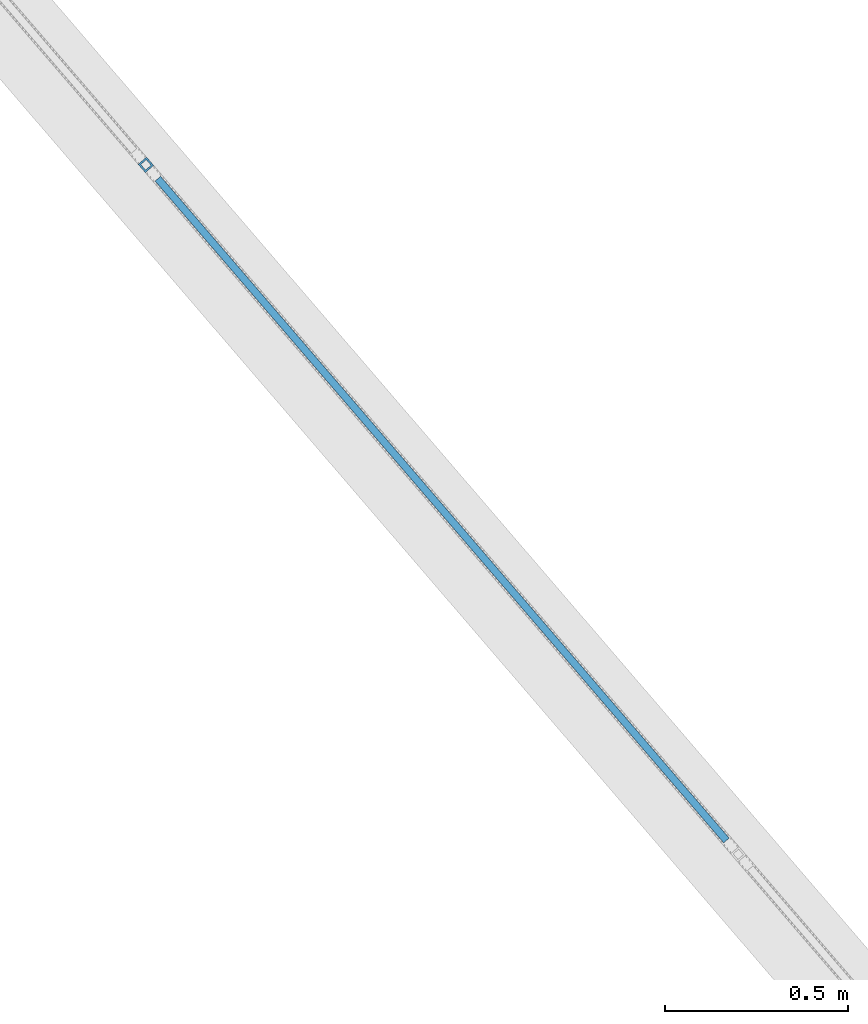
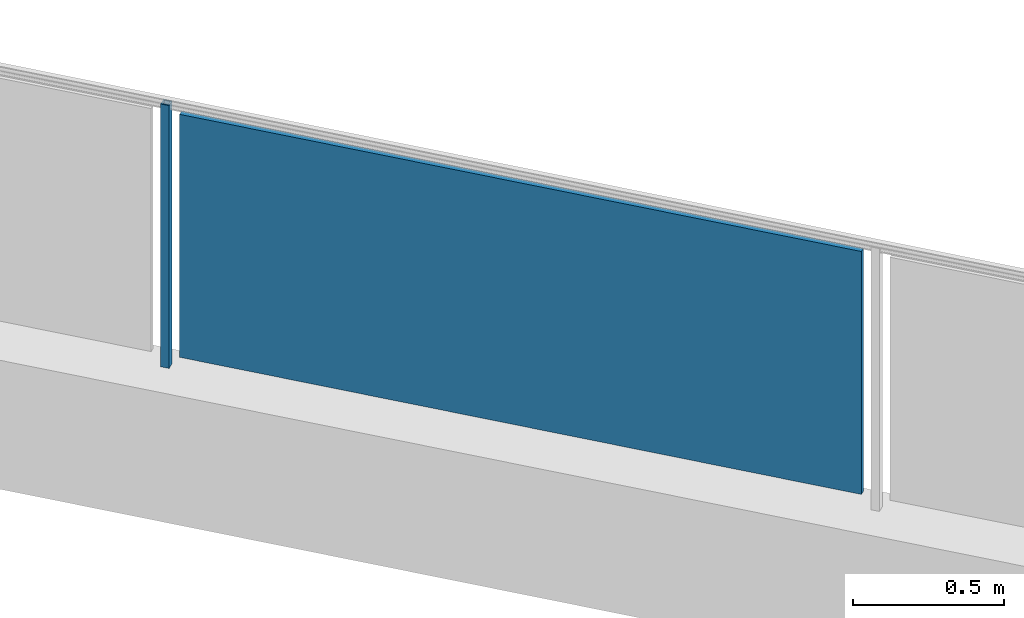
# One storey, part 49 of 67: 2 building element parts, 1 element without a shape of its own.
"""IFC4 building model written with IfcOpenShell, lengths in metres."""

from ifc_helpers import new_model, entity, si_unit, converted_unit, derived_unit, direction, frame, origin_with_axes, place, context, subcontext, project, spatial, polygons, material, type_object, element, aggregate, save


model = new_model("IFC4")

# Units and contexts
model_context = context("Model", 3, precision=1e-05, world=origin_with_axes(), true_north=direction((0.0, 1.0)))
body_context = subcontext(model_context, "Body", "Model", "MODEL_VIEW")
ifc_project = project(units=[si_unit("LENGTHUNIT", "METRE"), si_unit("AREAUNIT", "SQUARE_METRE"), si_unit("VOLUMEUNIT", "CUBIC_METRE"), converted_unit("PLANEANGLEUNIT", "DEGREE", entity("IfcPlaneAngleMeasure", 0.0174532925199), si_unit("PLANEANGLEUNIT", "RADIAN"), dimensions=[0, 0, 0, 0, 0, 0, 0]), converted_unit("TIMEUNIT", "Year", entity("IfcTimeMeasure", 31556926.0), si_unit("TIMEUNIT", "SECOND"), dimensions=[0, 0, 1, 0, 0, 0, 0]), si_unit("MASSUNIT", "GRAM", prefix="KILO"), si_unit("THERMODYNAMICTEMPERATUREUNIT", "DEGREE_CELSIUS"), si_unit("LUMINOUSINTENSITYUNIT", "LUMEN"), si_unit("ENERGYUNIT", "JOULE", prefix="MEGA"), derived_unit("THERMALCONDUCTANCEUNIT", [(si_unit("POWERUNIT", "WATT"), 1), (si_unit("LENGTHUNIT", "METRE"), -1), (si_unit("THERMODYNAMICTEMPERATUREUNIT", "KELVIN"), -1)]), derived_unit("SPECIFICHEATCAPACITYUNIT", [(si_unit("ENERGYUNIT", "JOULE"), 1), (si_unit("MASSUNIT", "GRAM", prefix="KILO"), -1), (si_unit("THERMODYNAMICTEMPERATUREUNIT", "KELVIN"), -1)]), derived_unit("MASSDENSITYUNIT", [(si_unit("MASSUNIT", "GRAM", prefix="KILO"), 1), (si_unit("VOLUMEUNIT", "CUBIC_METRE"), -1)])], contexts=[model_context])

# Site, building, storey
site_placement = place(None, frame((-0.00153261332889, -0.00661245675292, 0.0), z_axis=(0.0, 0.0, 1.0), x_axis=(1.0, 0.0, 0.0)))
site = spatial("IfcSite", under=ifc_project, at=site_placement, Name="Site", CompositionType="ELEMENT")
building_placement = place(site_placement, origin_with_axes())
building = spatial("IfcBuilding", under=site, at=building_placement, Name="Building", CompositionType="ELEMENT")
storey_placement = place(building_placement, frame((0.0, 0.0, -0.22), z_axis=(0.0, 0.0, 1.0), x_axis=(1.0, 0.0, 0.0)))
storey = spatial("IfcBuildingStorey", under=building, at=storey_placement, Name="EG", CompositionType="ELEMENT", Elevation=-0.22)

# Railing, building element parts
railing_type = type_object("IfcRailingType", Name="Geländerart", PredefinedType="NOTDEFINED")
railing_placement = place(storey_placement, frame((-12.1608341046, 23.557810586, 0.523948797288), z_axis=(0.0, 0.0, 1.0), x_axis=(1.0, 0.0, 0.0)))
railing = element("IfcRailing", 1, at=railing_placement, inside=storey, type_object=railing_type, Name="Geländer - 001", PredefinedType="NOTDEFINED")
ifc_material_1 = material(Name="Zaun")
building_element_part_1_placement = place(railing_placement, origin_with_axes())
building_element_part_1 = element("IfcBuildingElementPart", 2, at=building_element_part_1_placement, material=ifc_material_1, Name="Zaun", PredefinedType="NOTDEFINED", context=body_context, shape_type="Tessellation", body=[
    polygons([(22.3447409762, 7.71252007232, 0.05), (23.9005631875, 5.90181752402, 0.05), (23.9005631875, 5.90181752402, 1.03), (22.3447409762, 7.71252007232, 1.03), (23.9157326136, 5.91485165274, 0.05), (22.3599104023, 7.72555420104, 0.05), (23.9157326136, 5.91485165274, 1.03), (22.3599104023, 7.72555420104, 1.03)], [[[1, 2, 3, 4]], [[5, 2, 1, 6]], [[7, 3, 2, 5]], [[4, 3, 7, 8]], [[1, 4, 8, 6]], [[7, 5, 6, 8]]], closed=True),
])
ifc_material_2 = material(Name="Aluminium")
building_element_part_2_placement = place(railing_placement, origin_with_axes())
building_element_part_2 = element("IfcBuildingElementPart", 3, at=building_element_part_2_placement, material=ifc_material_2, Name="Aluminium", PredefinedType="NOTDEFINED", context=body_context, shape_type="Tessellation", body=[
    polygons([(22.3213418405, 7.77811336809, 0.0), (22.2985877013, 7.75856217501, 0.0), (22.2985877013, 7.75856217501, 1.06), (22.3213418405, 7.77811336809, 1.06), (22.3408930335, 7.75535922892, 0.0), (22.3181388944, 7.73580803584, 0.0), (22.3208080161, 7.77106247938, 0.0), (22.30563859, 7.75802835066, 0.0), (22.3186727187, 7.74285892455, 0.0), (22.3338421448, 7.75589305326, 0.0), (22.3181388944, 7.73580803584, 1.06), (22.3408930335, 7.75535922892, 1.06), (22.3208080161, 7.77106247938, 1.06), (22.3338421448, 7.75589305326, 1.06), (22.3186727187, 7.74285892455, 1.06), (22.30563859, 7.75802835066, 1.06)], [[[1, 2, 3, 4]], [[1, 5, 6, 2], [7, 8, 9, 10]], [[2, 6, 11, 3]], [[4, 3, 11, 12], [13, 14, 15, 16]], [[5, 1, 4, 12]], [[6, 5, 12, 11]], [[8, 7, 13, 16]], [[9, 8, 16, 15]], [[10, 9, 15, 14]], [[7, 10, 14, 13]]], closed=True),
])
aggregate(railing, [building_element_part_1, building_element_part_2])

save(model, "model.ifc")
